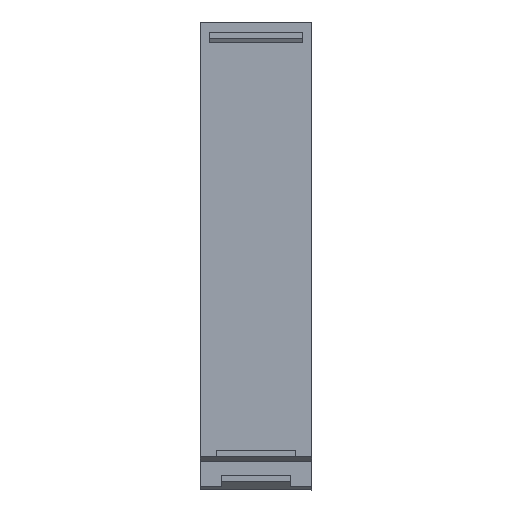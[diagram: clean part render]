
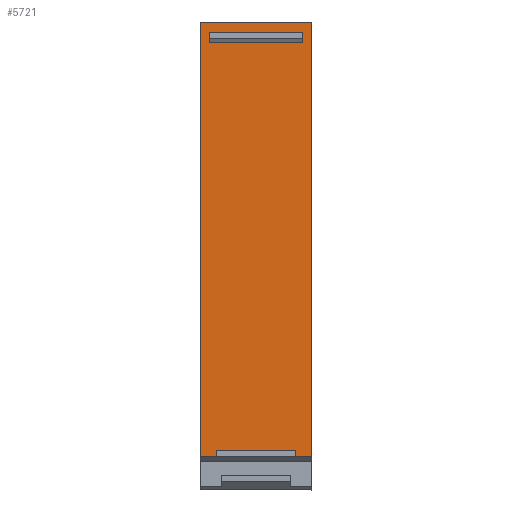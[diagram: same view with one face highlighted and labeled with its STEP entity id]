
A CAD part, front view. The second image highlights one B-rep face of the part: STEP entity #5721.
In plain terms, the highlighted planar face has unit normal (0, -1, 0).
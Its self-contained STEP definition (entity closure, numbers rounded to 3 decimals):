
#123 = VERTEX_POINT ( 'NONE', #2124 ) ;
#124 = ORIENTED_EDGE ( 'NONE', *, *, #125, .T. ) ;
#125 = EDGE_CURVE ( 'NONE', #123, #126, #2123, .T. ) ;
#126 = VERTEX_POINT ( 'NONE', #2119 ) ;
#127 = ORIENTED_EDGE ( 'NONE', *, *, #128, .F. ) ;
#128 = EDGE_CURVE ( 'NONE', #5717, #126, #2118, .T. ) ;
#129 = EDGE_LOOP ( 'NONE', ( #130, #396, #314, #317, #320, #323, #348, #351 ) ) ;
#130 = ORIENTED_EDGE ( 'NONE', *, *, #131, .F. ) ;
#131 = EDGE_CURVE ( 'NONE', #132, #133, #2114, .T. ) ;
#132 = VERTEX_POINT ( 'NONE', #2110 ) ;
#133 = VERTEX_POINT ( 'NONE', #2173 ) ;
#137 = ORIENTED_EDGE ( 'NONE', *, *, #139, .T. ) ;
#139 = EDGE_CURVE ( 'NONE', #5718, #123, #2167, .T. ) ;
#314 = ORIENTED_EDGE ( 'NONE', *, *, #315, .T. ) ;
#315 = EDGE_CURVE ( 'NONE', #398, #316, #2406, .T. ) ;
#316 = VERTEX_POINT ( 'NONE', #2402 ) ;
#317 = ORIENTED_EDGE ( 'NONE', *, *, #318, .F. ) ;
#318 = EDGE_CURVE ( 'NONE', #319, #316, #2466, .T. ) ;
#319 = VERTEX_POINT ( 'NONE', #2462 ) ;
#320 = ORIENTED_EDGE ( 'NONE', *, *, #321, .F. ) ;
#321 = EDGE_CURVE ( 'NONE', #322, #319, #2461, .T. ) ;
#322 = VERTEX_POINT ( 'NONE', #2457 ) ;
#323 = ORIENTED_EDGE ( 'NONE', *, *, #324, .F. ) ;
#324 = EDGE_CURVE ( 'NONE', #325, #322, #2456, .T. ) ;
#325 = VERTEX_POINT ( 'NONE', #2452 ) ;
#348 = ORIENTED_EDGE ( 'NONE', *, *, #349, .F. ) ;
#349 = EDGE_CURVE ( 'NONE', #350, #325, #2486, .T. ) ;
#350 = VERTEX_POINT ( 'NONE', #2482 ) ;
#351 = ORIENTED_EDGE ( 'NONE', *, *, #352, .F. ) ;
#352 = EDGE_CURVE ( 'NONE', #133, #350, #2481, .T. ) ;
#396 = ORIENTED_EDGE ( 'NONE', *, *, #397, .F. ) ;
#397 = EDGE_CURVE ( 'NONE', #398, #132, #2587, .T. ) ;
#398 = VERTEX_POINT ( 'NONE', #2583 ) ;
#2110 = CARTESIAN_POINT ( 'NONE',  ( 9.75, -49., 8.155 ) ) ;
#2111 = DIRECTION ( 'NONE',  ( 0., 0., 1. ) ) ;
#2112 = VECTOR ( 'NONE', #2111, 1000. ) ;
#2113 = CARTESIAN_POINT ( 'NONE',  ( 9.75, -49., 8.155 ) ) ;
#2114 = LINE ( 'NONE', #2113, #2112 ) ;
#2115 = DIRECTION ( 'NONE',  ( 1., 0., 0. ) ) ;
#2116 = VECTOR ( 'NONE', #2115, 1000. ) ;
#2117 = CARTESIAN_POINT ( 'NONE',  ( -11.5, -49., 110. ) ) ;
#2118 = LINE ( 'NONE', #2117, #2116 ) ;
#2119 = CARTESIAN_POINT ( 'NONE',  ( 11.5, -49., 110. ) ) ;
#2120 = DIRECTION ( 'NONE',  ( 0., 0., -1. ) ) ;
#2121 = VECTOR ( 'NONE', #2120, 1000. ) ;
#2122 = CARTESIAN_POINT ( 'NONE',  ( 11.5, -49., 110. ) ) ;
#2123 = LINE ( 'NONE', #2122, #2121 ) ;
#2124 = CARTESIAN_POINT ( 'NONE',  ( 11.5, -49., 112.5 ) ) ;
#2164 = DIRECTION ( 'NONE',  ( 1., 0., 0. ) ) ;
#2165 = VECTOR ( 'NONE', #2164, 1000. ) ;
#2166 = CARTESIAN_POINT ( 'NONE',  ( -11.5, -49., 112.5 ) ) ;
#2167 = LINE ( 'NONE', #2166, #2165 ) ;
#2173 = CARTESIAN_POINT ( 'NONE',  ( 9.75, -49., 9.655 ) ) ;
#2402 = CARTESIAN_POINT ( 'NONE',  ( 13.7, -49., 115. ) ) ;
#2403 = DIRECTION ( 'NONE',  ( 0., 0., 1. ) ) ;
#2404 = VECTOR ( 'NONE', #2403, 1000. ) ;
#2405 = CARTESIAN_POINT ( 'NONE',  ( 13.7, -49., 81.5 ) ) ;
#2406 = LINE ( 'NONE', #2405, #2404 ) ;
#2452 = CARTESIAN_POINT ( 'NONE',  ( -9.75, -49., 8.155 ) ) ;
#2453 = DIRECTION ( 'NONE',  ( -1., 0., 0. ) ) ;
#2454 = VECTOR ( 'NONE', #2453, 1000. ) ;
#2455 = CARTESIAN_POINT ( 'NONE',  ( 15., -49., 8.155 ) ) ;
#2456 = LINE ( 'NONE', #2455, #2454 ) ;
#2457 = CARTESIAN_POINT ( 'NONE',  ( -13.7, -49., 8.155 ) ) ;
#2458 = DIRECTION ( 'NONE',  ( 0., 0., 1. ) ) ;
#2459 = VECTOR ( 'NONE', #2458, 1000. ) ;
#2460 = CARTESIAN_POINT ( 'NONE',  ( -13.7, -49., 81.5 ) ) ;
#2461 = LINE ( 'NONE', #2460, #2459 ) ;
#2462 = CARTESIAN_POINT ( 'NONE',  ( -13.7, -49., 115. ) ) ;
#2463 = DIRECTION ( 'NONE',  ( 1., 0., 0. ) ) ;
#2464 = VECTOR ( 'NONE', #2463, 1000. ) ;
#2465 = CARTESIAN_POINT ( 'NONE',  ( -13.7, -49., 115. ) ) ;
#2466 = LINE ( 'NONE', #2465, #2464 ) ;
#2478 = DIRECTION ( 'NONE',  ( -1., 0., 0. ) ) ;
#2479 = VECTOR ( 'NONE', #2478, 1000. ) ;
#2480 = CARTESIAN_POINT ( 'NONE',  ( 9.75, -49., 9.655 ) ) ;
#2481 = LINE ( 'NONE', #2480, #2479 ) ;
#2482 = CARTESIAN_POINT ( 'NONE',  ( -9.75, -49., 9.655 ) ) ;
#2483 = DIRECTION ( 'NONE',  ( 0., 0., -1. ) ) ;
#2484 = VECTOR ( 'NONE', #2483, 1000. ) ;
#2485 = CARTESIAN_POINT ( 'NONE',  ( -9.75, -49., 8.155 ) ) ;
#2486 = LINE ( 'NONE', #2485, #2484 ) ;
#2583 = CARTESIAN_POINT ( 'NONE',  ( 13.7, -49., 8.155 ) ) ;
#2584 = DIRECTION ( 'NONE',  ( -1., 0., 0. ) ) ;
#2585 = VECTOR ( 'NONE', #2584, 1000. ) ;
#2586 = CARTESIAN_POINT ( 'NONE',  ( 15., -49., 8.155 ) ) ;
#2587 = LINE ( 'NONE', #2586, #2585 ) ;
#5335 = DIRECTION ( 'NONE',  ( 0., 0., -1. ) ) ;
#5336 = DIRECTION ( 'NONE',  ( 0., 1., 0. ) ) ;
#5337 = CARTESIAN_POINT ( 'NONE',  ( -13.7, -49., 81.5 ) ) ;
#5338 = AXIS2_PLACEMENT_3D ( 'NONE', #5337, #5336, #5335 ) ;
#5339 = PLANE ( 'NONE',  #5338 ) ;
#5340 = FACE_OUTER_BOUND ( 'NONE', #129, .T. ) ;
#5341 = FACE_BOUND ( 'NONE', #5722, .T. ) ;
#5342 = DIRECTION ( 'NONE',  ( 0., 0., -1. ) ) ;
#5343 = VECTOR ( 'NONE', #5342, 1000. ) ;
#5344 = CARTESIAN_POINT ( 'NONE',  ( -11.5, -49., 110. ) ) ;
#5345 = LINE ( 'NONE', #5344, #5343 ) ;
#5346 = CARTESIAN_POINT ( 'NONE',  ( -11.5, -49., 112.5 ) ) ;
#5347 = CARTESIAN_POINT ( 'NONE',  ( -11.5, -49., 110. ) ) ;
#5717 = VERTEX_POINT ( 'NONE', #5347 ) ;
#5718 = VERTEX_POINT ( 'NONE', #5346 ) ;
#5719 = EDGE_CURVE ( 'NONE', #5718, #5717, #5345, .T. ) ;
#5720 = ORIENTED_EDGE ( 'NONE', *, *, #5719, .F. ) ;
#5721 = ADVANCED_FACE ( 'NONE', ( #5341, #5340 ), #5339, .F. ) ;
#5722 = EDGE_LOOP ( 'NONE', ( #5720, #137, #124, #127 ) ) ;
